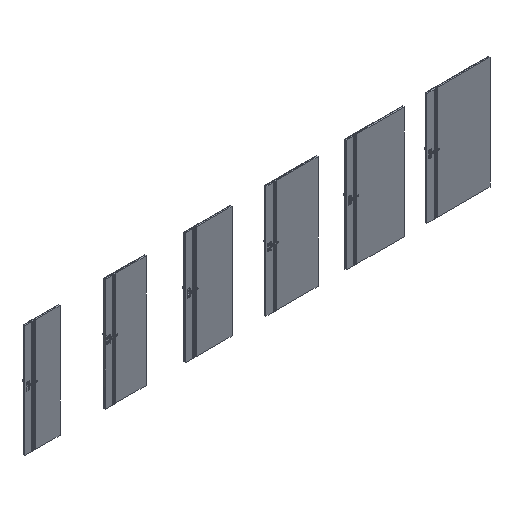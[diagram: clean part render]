
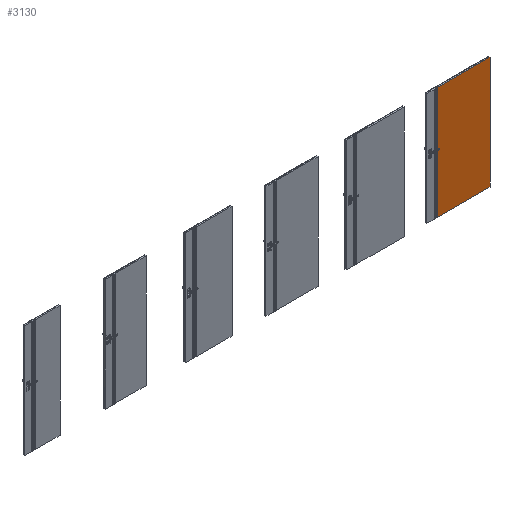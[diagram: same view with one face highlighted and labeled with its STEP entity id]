
A CAD part, isometric view. The second image highlights one B-rep face of the part: STEP entity #3130.
In plain terms, the highlighted planar face has unit normal (0, -1, 0).
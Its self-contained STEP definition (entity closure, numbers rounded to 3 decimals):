
#3130=ADVANCED_FACE('',(#5056),#4210,.F.);
#4210=PLANE('',#23327);
#5056=FACE_OUTER_BOUND('',#6376,.T.);
#6376=EDGE_LOOP('',(#10022,#10023,#10024,#10025));
#10022=ORIENTED_EDGE('',*,*,#16964,.F.);
#10023=ORIENTED_EDGE('',*,*,#16965,.T.);
#10024=ORIENTED_EDGE('',*,*,#16966,.F.);
#10025=ORIENTED_EDGE('',*,*,#16967,.F.);
#14512=VERTEX_POINT('',#35685);
#14513=VERTEX_POINT('',#35686);
#14514=VERTEX_POINT('',#35688);
#14515=VERTEX_POINT('',#35690);
#16964=EDGE_CURVE('',#14512,#14513,#19646,.T.);
#16965=EDGE_CURVE('',#14512,#14514,#19647,.T.);
#16966=EDGE_CURVE('',#14515,#14514,#19648,.T.);
#16967=EDGE_CURVE('',#14513,#14515,#19649,.T.);
#19646=LINE('',#35684,#21470);
#19647=LINE('',#35687,#21471);
#19648=LINE('',#35689,#21472);
#19649=LINE('',#35691,#21473);
#21470=VECTOR('',#27301,1.);
#21471=VECTOR('',#27302,1.);
#21472=VECTOR('',#27303,1.);
#21473=VECTOR('',#27304,1.);
#23327=AXIS2_PLACEMENT_3D('',#35692,#27305,#27306);
#27301=DIRECTION('',(0.,0.,1.));
#27302=DIRECTION('',(1.,0.,0.));
#27303=DIRECTION('',(0.,0.,-1.));
#27304=DIRECTION('',(1.,0.,0.));
#27305=DIRECTION('',(0.,1.,0.));
#27306=DIRECTION('',(-1.,0.,0.));
#35684=CARTESIAN_POINT('',(7121.65,-39.3,0.));
#35685=CARTESIAN_POINT('',(7121.65,-39.3,0.));
#35686=CARTESIAN_POINT('',(7121.65,-39.3,2027.));
#35687=CARTESIAN_POINT('',(7180.5,-39.3,0.));
#35688=CARTESIAN_POINT('',(8069.5,-39.3,0.));
#35689=CARTESIAN_POINT('',(8069.5,-39.3,2027.));
#35690=CARTESIAN_POINT('',(8069.5,-39.3,2027.));
#35691=CARTESIAN_POINT('',(7180.5,-39.3,2027.));
#35692=CARTESIAN_POINT('',(7180.5,-39.3,2027.));
